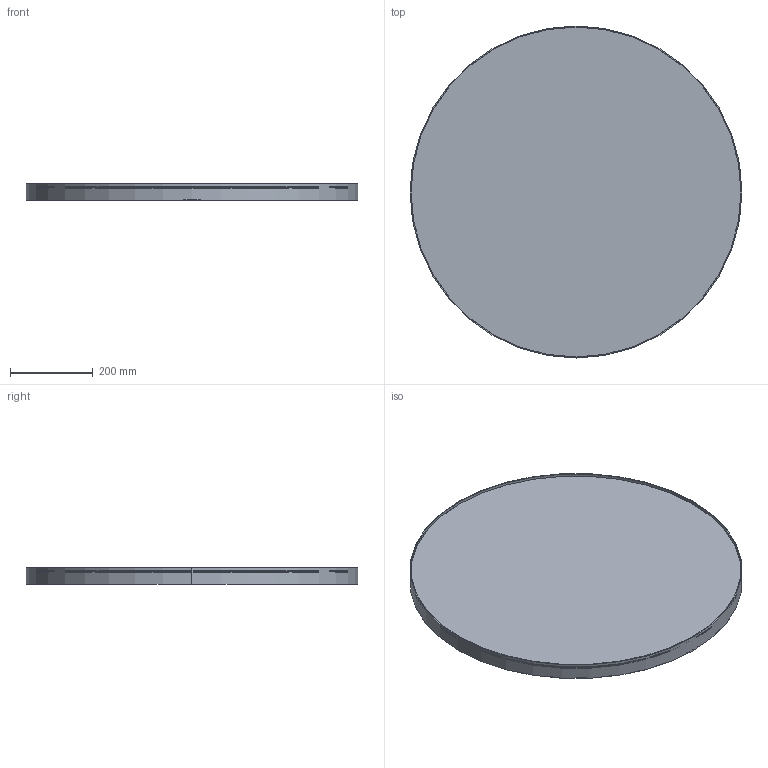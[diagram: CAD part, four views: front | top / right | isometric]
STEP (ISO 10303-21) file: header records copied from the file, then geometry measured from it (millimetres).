
FILE_DESCRIPTION (( 'STEP AP214' ), '1' );
FILE_NAME ('SM6B_Runn.STEP', '2021-03-08T07:16:38', ( '' ), ( '' ), 'SwSTEP 2.0', 'SolidWorks 2020', '' );
FILE_SCHEMA (( 'AUTOMOTIVE_DESIGN' ));
Length unit declared in the file: centimetre
Products named in the file (1): SM6B_Runn
Bounding box: 800 x 800 x 40 mm (x, y, z)
Volume: 2343438.1 mm3; surface area: 1413049.3 mm2
Topology: 2 solids, 2 shells, 42 faces, 104 edges, 68 vertices
Faces by surface type: cylinder 20, plane 18, cone 4
Entity records: 1781 total; most frequent: DIRECTION 238, CARTESIAN_POINT 215, ORIENTED_EDGE 208, EDGE_CURVE 104, AXIS2_PLACEMENT_3D 91, VERTEX_POINT 68, VECTOR 56, LINE 56
